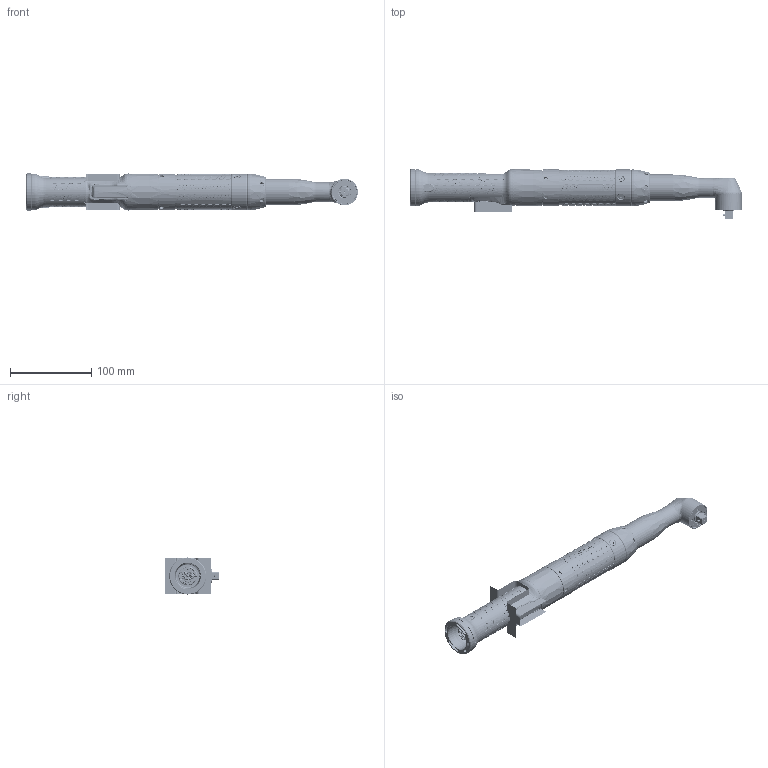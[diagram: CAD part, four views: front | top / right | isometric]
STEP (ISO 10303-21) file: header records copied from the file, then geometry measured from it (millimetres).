
FILE_DESCRIPTION((''),'2;1');
FILE_NAME('30EAN21FA3_ASM','2019-02-18T',('QC717'),(''),'CREO PARAMETRIC BY PTC INC, 2016130','CREO PARAMETRIC BY PTC INC, 2016130','');
FILE_SCHEMA(('CONFIG_CONTROL_DESIGN'));
Products named in the file (163): 3D_WIRES; 961558PT; 961692PT; 961565PT_DUP; 961564PT; 961575PT; 961559PT_DUP; 961667PT; SHR-09V-S-B; 119625-T-_61_253__KONTAKTST_DUP; 961557PT; ETHERNET_CONN; 961557PT_ASM; 7908-0101-XX; AD22151; XE18235; XE18236; SM12B-SRSS-TB; BM09B-SRSS-TB; BM02B-SRSS-TB; 527451297; CAPACITOR; 11020FL210014-XX; SRU3028-100Y; 0420CDMCBDS-220MC; GRM32ER71H106KA12; 525591652; D303; D201; D305; 8817-0101-XX_ASM; 961668PT_ASM; 863454_INSTALLED; SHR-12V-S-B; 961594PT; 961594PT_DUP_ASM; 207903PT; 207904PT; 207906PT; PCB2033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
Assembly tree (222 placements, depth 7):
  30EAN21FA3_ASM
    302089PT_ASM
      302068PT_ASM
        3D_WIRES
        961558PT
        961692PT
        961565PT_DUP  x4
        961564PT
        961575PT
        961559PT_DUP
        961667PT
        961557PT_ASM
          SHR-09V-S-B
          119625-T-_61_253__KONTAKTST_DUP  x2
          961557PT
          ETHERNET_CONN
        961668PT_ASM
          8817-0101-XX_ASM
            7908-0101-XX
            AD22151  x4
            XE18235
            XE18236
            SM12B-SRSS-TB
            BM09B-SRSS-TB
            BM02B-SRSS-TB
            527451297
            CAPACITOR  x2
            11020FL210014-XX
            SRU3028-100Y  x2
            0420CDMCBDS-220MC
            GRM32ER71H106KA12
            525591652
            D303
            D201  x2
            D305
        863454_INSTALLED
        961594PT_DUP_ASM
          SHR-12V-S-B  x2
          961594PT
        207903PT
        207904PT
        207905PT_INST_ASM
          207906PT
          PCB2033_INST_ASM
            PCB2033
            PCA9624BS_STIFFENER  x2
            PCA9624BS
            CAT24C256
            BUZZER_DUP
            XZFBB81FS  x16
            CLM3ABK  x2
          207907PT_OBS_ASM
            207907PT
            208867PT
            208868PT
          207908PT_INSTALLED
        207967PT_INSTALLED
        207964PT
        207925PT
        207949PT
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Bounding box: 408.19 x 66.88 x 45.55 mm (x, y, z)
Volume: 328295.5 mm3; surface area: 376414.8 mm2
Topology: 225 solids, 258 shells, 18441 faces, 48742 edges, 30957 vertices
Faces by surface type: plane 8008, cylinder 4594, bspline 2310, extrusion 1375, cone 1122, torus 836, sphere 172, revolution 24
Entity records: 693594 total; most frequent: CARTESIAN_POINT 306707, ORIENTED_EDGE 85386, DIRECTION 72170, EDGE_CURVE 42794, VERTEX_POINT 27172, AXIS2_PLACEMENT_3D 24811, VECTOR 22526, LINE 21321
